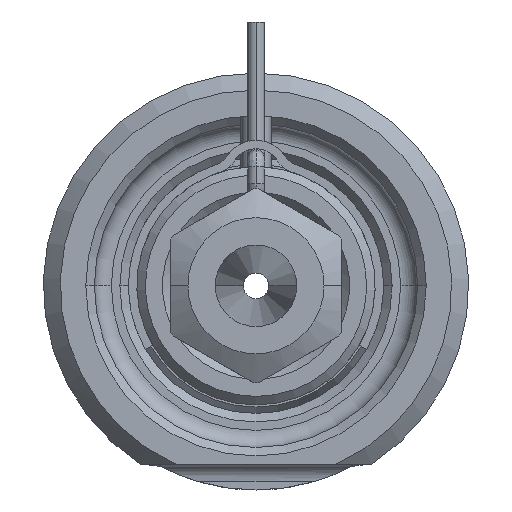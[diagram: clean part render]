
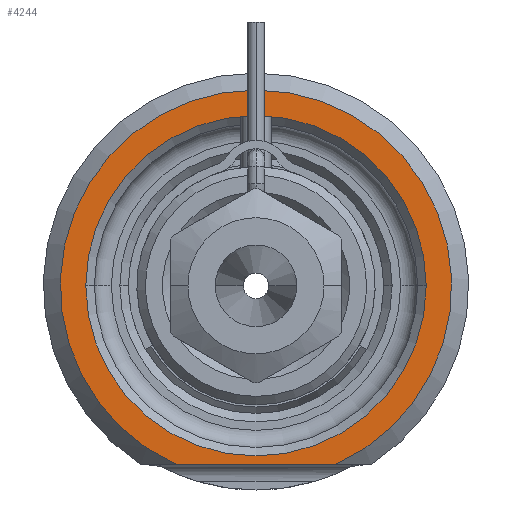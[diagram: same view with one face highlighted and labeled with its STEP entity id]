
A CAD part, front view. The second image highlights one B-rep face of the part: STEP entity #4244.
In plain terms, the highlighted planar face has unit normal (0, -1, 0).
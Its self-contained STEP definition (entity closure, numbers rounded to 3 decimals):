
#1363=CARTESIAN_POINT('',(0.,0.,0.));
#1364=DIRECTION('',(0.,-1.,0.));
#1365=DIRECTION('',(0.408,0.,-0.913));
#1366=AXIS2_PLACEMENT_3D('',#1363,#1364,#1365);
#1387=DIRECTION('',(1.,0.,0.));
#1388=VECTOR('',#1387,9.381);
#1389=CARTESIAN_POINT('',(-4.69,0.,-10.5));
#1390=LINE('',#1389,#1388);
#1391=CARTESIAN_POINT('',(0.,0.,0.));
#1392=DIRECTION('',(0.,1.,0.));
#1393=DIRECTION('',(-1.,0.,0.));
#1394=AXIS2_PLACEMENT_3D('',#1391,#1392,#1393);
#1396=CARTESIAN_POINT('',(0.,0.,0.));
#1397=DIRECTION('',(0.,1.,0.));
#1398=DIRECTION('',(1.,0.,0.));
#1399=AXIS2_PLACEMENT_3D('',#1396,#1397,#1398);
#2334=CARTESIAN_POINT('',(-10.,0.,0.));
#2335=CARTESIAN_POINT('',(10.,0.,0.));
#2336=VERTEX_POINT('',#2334);
#2337=VERTEX_POINT('',#2335);
#2378=CARTESIAN_POINT('',(-4.69,0.,-10.5));
#2379=CARTESIAN_POINT('',(4.69,0.,-10.5));
#2380=VERTEX_POINT('',#2378);
#2381=VERTEX_POINT('',#2379);
#4229=CARTESIAN_POINT('',(0.,0.,0.));
#4230=DIRECTION('',(0.,-1.,0.));
#4231=DIRECTION('',(1.,0.,0.));
#4232=AXIS2_PLACEMENT_3D('',#4229,#4230,#4231);
#4233=PLANE('',#4232);
#4234=ORIENTED_EDGE('',*,*,#4164,.F.);
#4235=ORIENTED_EDGE('',*,*,#4221,.F.);
#4236=EDGE_LOOP('',(#4234,#4235));
#4237=FACE_OUTER_BOUND('',#4236,.F.);
#4239=ORIENTED_EDGE('',*,*,#4238,.F.);
#4241=ORIENTED_EDGE('',*,*,#4240,.F.);
#4242=EDGE_LOOP('',(#4239,#4241));
#4243=FACE_BOUND('',#4242,.F.);
#4244=ADVANCED_FACE('',(#4237,#4243),#4233,.T.);
#1367=CIRCLE('',#1366,11.5);
#1395=CIRCLE('',#1394,10.);
#1400=CIRCLE('',#1399,10.);
#4164=EDGE_CURVE('',#2380,#2381,#1390,.T.);
#4221=EDGE_CURVE('',#2381,#2380,#1367,.T.);
#4238=EDGE_CURVE('',#2336,#2337,#1395,.T.);
#4240=EDGE_CURVE('',#2337,#2336,#1400,.T.);
